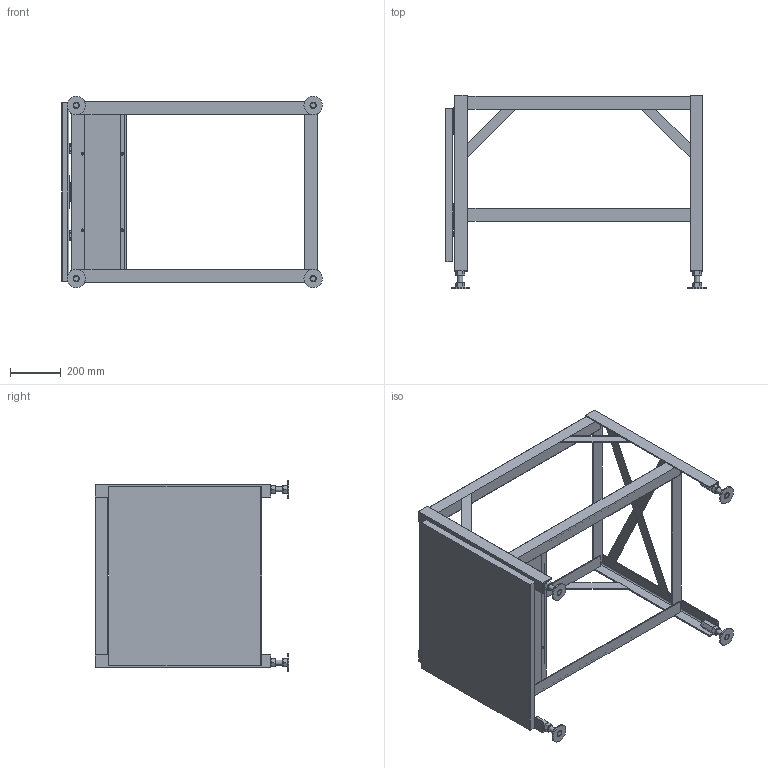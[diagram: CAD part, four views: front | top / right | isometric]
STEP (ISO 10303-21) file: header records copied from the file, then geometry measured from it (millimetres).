
FILE_DESCRIPTION(('STEP AP214'), '1');
FILE_NAME('栺鎀', '2021-03-20T12:12:36', ('UNSPECIFIED'), ('UNSPECIFIED'), 'ASCON STEP Converter 1.3', 'ASCON Math Kernel', '');
FILE_SCHEMA(('AUTOMOTIVE_DESIGN { 1 0 10303 214 3 1 1}'));
Length unit declared in the file: millimetre
Products named in the file (22): 01.09.2020; 20.03.2021; 02.03.2021
Assembly tree (59 placements, depth 3):
  01.09.2020
    (unnamed)  x4
    (unnamed)  x3
    (unnamed)
    (unnamed)  x4
    (unnamed)  x4
    (unnamed)  x4
      (unnamed)
      (unnamed)
      (unnamed)
    (unnamed)
    (unnamed)
    20.03.2021  x4
    02.03.2021  x4
    (unnamed)  x2
      (unnamed)
      (unnamed)
      (unnamed)
    (unnamed)  x4
    (unnamed)
    (unnamed)
    (unnamed)  x14
Bounding box: 1023.38 x 760 x 752 mm (x, y, z)
Volume: 19645491.3 mm3; surface area: 3666925.8 mm2
Topology: 68 solids, 68 shells, 1148 faces, 2719 edges, 1748 vertices
Faces by surface type: plane 613, cone 190, cylinder 153, bspline 144, torus 26, sphere 22
Full cylindrical faces by diameter (mm): 4.2 x18, 4.5 x10, 5.3 x12, 6 x2, 8.5 x1, 10 x18, 17.294 x12, 18 x1, 20 x4, 25 x4, 72 x4
Entity records: 13633 total; most frequent: CARTESIAN_POINT 3170, DIRECTION 1357, ORIENTED_EDGE 1166, EDGE_CURVE 583, AXIS2_PLACEMENT_3D 523, VERTEX_POINT 410, EDGE_LOOP 373, LINE 311
